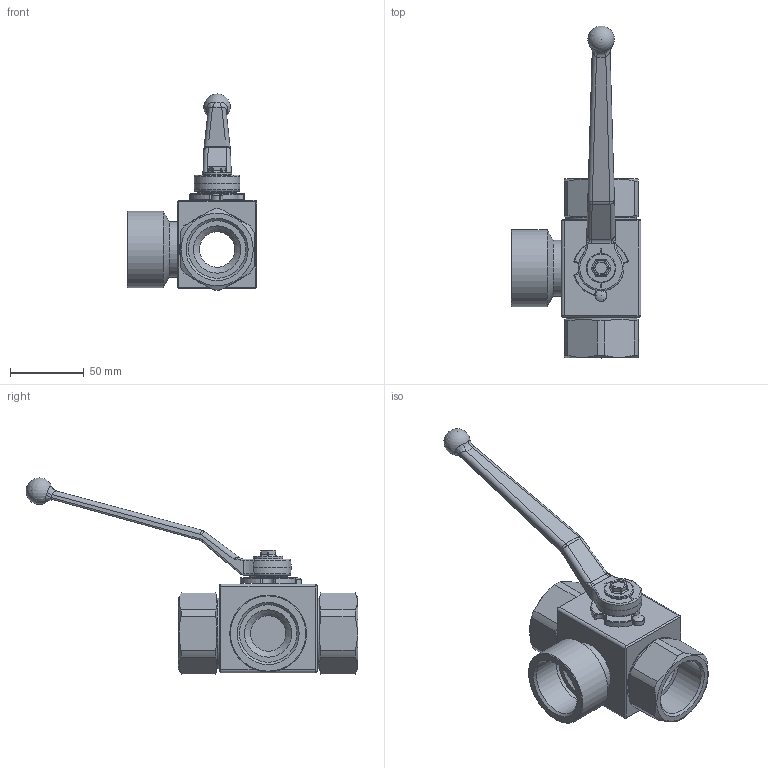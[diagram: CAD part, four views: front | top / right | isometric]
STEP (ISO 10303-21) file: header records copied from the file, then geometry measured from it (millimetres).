
FILE_DESCRIPTION( ( 'Unknown' ), '1' );
FILE_NAME( 'H:/PISTER/3D-MODELLE/BK3 stp/BK3 DN25 G5_4.stp', 'Unknown', ( 'Unknown' ), ( 'Unknown' ), 'PSStep 14.0', 'Unknown', ' ' );
FILE_SCHEMA( ( 'AUTOMOTIVE_DESIGN { 1 0 10303 214 1 1 1 1 }' ) );
Length unit declared in the file: millimetre
Products named in the file (11): Assem1; 10-025-001; 06-025-186-oa7; 09-14-001; 58-28740-13-oa8; Griff_SW14; 58-0933-147; 04-025-155-oa9; 04-025-155-oa10; 01-025-024-oa11; 04-025-058-oa12
Assembly tree (10 placements, depth 2):
  Assem1
    10-025-001
    06-025-186-oa7
    09-14-001
    58-28740-13-oa8
    Griff_SW14
    58-0933-147
    04-025-155-oa9
    04-025-155-oa10
    01-025-024-oa11
    04-025-058-oa12
Bounding box: 88 x 224.68 x 132.9 mm (x, y, z)
Volume: 142876.2 mm3; surface area: 81794.2 mm2
Topology: 10 solids, 10 shells, 367 faces, 912 edges, 559 vertices
Faces by surface type: plane 131, cylinder 128, torus 42, bspline 28, cone 24, sphere 14
Full cylindrical faces by diameter (mm): 5 x1, 6 x1, 6.5 x1, 7.98 x1, 20 x3, 20.2 x1, 24 x3, 25 x1, 37.8 x1, 38 x1, 38.952 x4, 43.3 x2, 48 x2, 50 x2, 51 x2, 52 x1
Entity records: 14978 total; most frequent: CARTESIAN_POINT 3622, DIRECTION 1803, ORIENTED_EDGE 1608, EDGE_CURVE 804, AXIS2_PLACEMENT_3D 737, VERTEX_POINT 529, EDGE_LOOP 458, FACE_OUTER_BOUND 405
